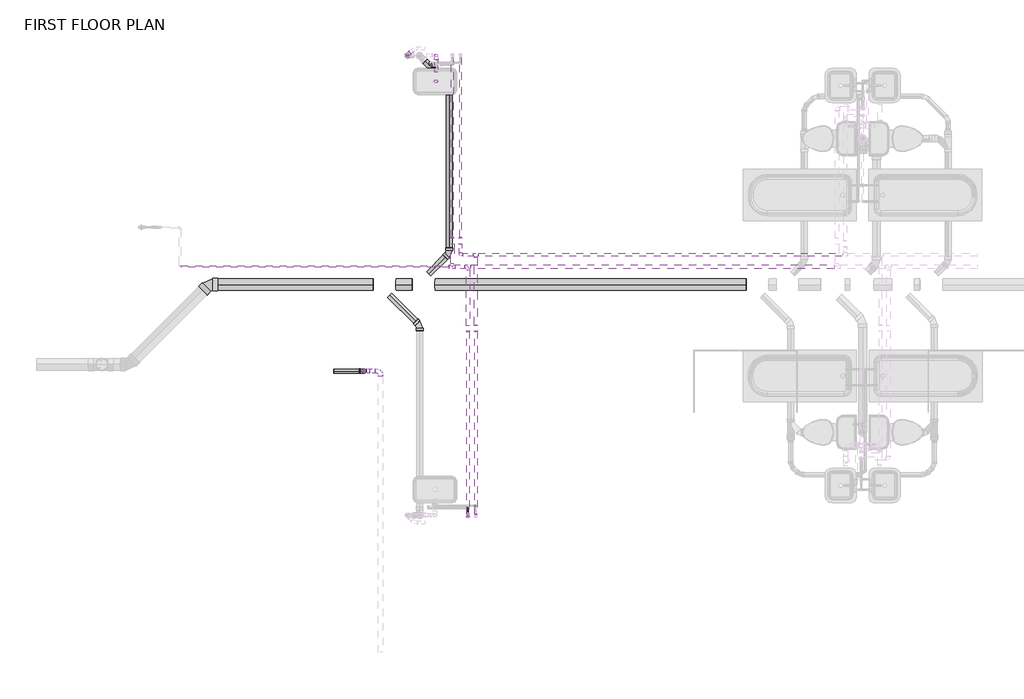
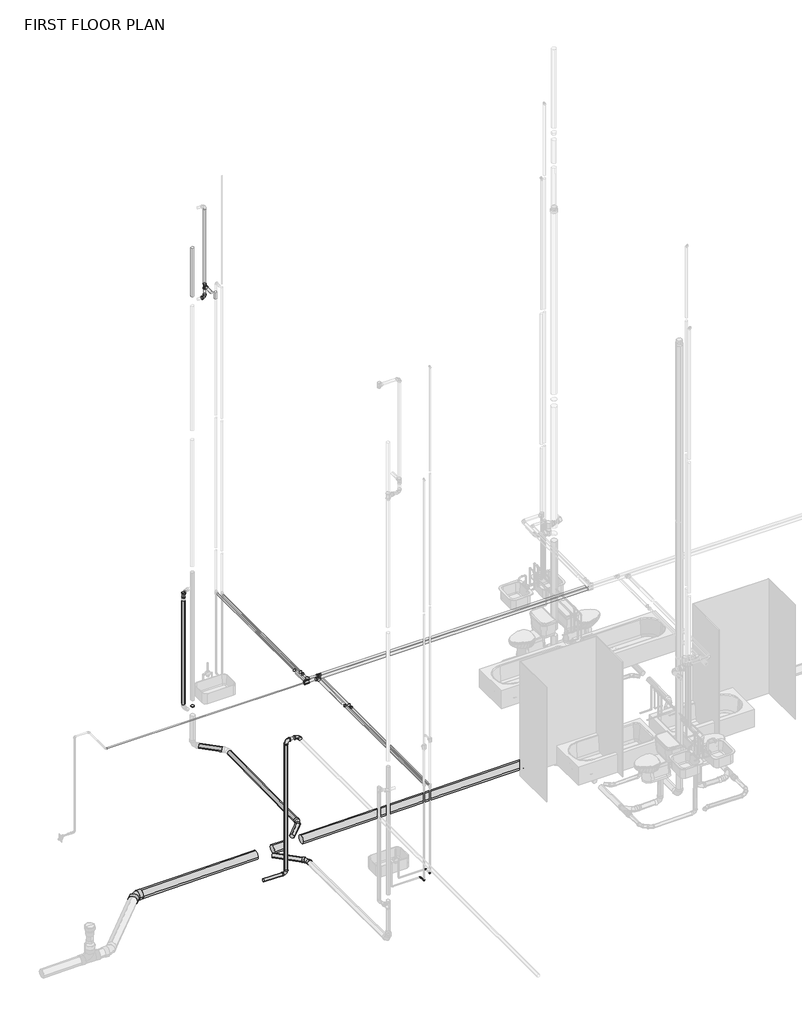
# One storey, part 3 of 29: 32 pipe segments, 25 pipe fittings.
"""IFC4 building model written with IfcOpenShell, lengths in millimetres."""

from ifc_helpers import new_model, si_unit, point, frame, frame_2d, origin, place, context, project, spatial, circle_curve, trimmed, segment, composite_curve, outline, extrude, transform, mapped, element, save
from components import bend_pvc_sch_40_dwv_standard_468c22b2, bend_pvc_sch_40_dwv_standard_06284595, bend_pvc_sch_40_dwv_standard_1eaeee76, bend_pvc_sch_40_dwv_standard_d92d3862, bend_pvc_sch_40_dwv_standard_7b61f301, bend_pvc_sch_40_dwv_standard_9a145829, pipe_elbow_copper_k_557be1fc, pipe_elbow_copper_k_aad62f2d, pipe_tee_copper_k_36278b8a, pipe_tee_copper_k_7127fd44, pipe_transition_copper_k_c7248b3c, pipe_transition_copper_k_2e591508, pipe_transition_copper_k_a6a91236, pipe_transition_copper_k_83c73321, pipe_transition_copper_k_2a5e9307, tee_sanitary_pvc_sch_40_dwv_standard_ad422280, tee_sanitary_pvc_sch_40_dwv_standard_be04015c

model = new_model("IFC4")

# Units and contexts
model_context = context("Model", 3, world=origin())
ifc_project = project(units=[si_unit("LENGTHUNIT", "METRE", prefix="MILLI")], contexts=[model_context])

# Site, building, storey
site = spatial("IfcSite", under=ifc_project)
building = spatial("IfcBuilding", under=site)
storey = spatial("IfcBuildingStorey", under=building, Name="FIRST FLOOR PLAN", Elevation=0.0)

# Pipe fittings
placement = place(None, origin())
bend_pvc_sch_40_dwv_standard_shape = bend_pvc_sch_40_dwv_standard_468c22b2(model_context)
element("IfcPipeFitting", 1, ObjectType="Bend - PVC - Sch 40 - DWV : Standard", at=placement, inside=storey, context=model_context, shape_type="MappedRepresentation", body=[
    mapped(bend_pvc_sch_40_dwv_standard_shape, transform((-4211.8802487, 8911.2513726, 8872.334795), x_axis=(0.0, 0.0, -1.0), y_axis=(-1.0, 0.0, 0.0), z_axis=(0.0, 1.0, 0.0))),
])
bend_pvc_sch_40_dwv_standard_2_shape = bend_pvc_sch_40_dwv_standard_06284595(model_context)
element("IfcPipeFitting", 2, ObjectType="Bend - PVC - Sch 40 - DWV : Standard", at=placement, inside=storey, context=model_context, shape_type="MappedRepresentation", body=[
    mapped(bend_pvc_sch_40_dwv_standard_2_shape, transform((-4457.3750986, 4908.9671681, -603.2959288), x_axis=(0.0, 0.9999579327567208, -0.009172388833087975), y_axis=(-0.9999992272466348, -1.1402965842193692e-05, -0.0012431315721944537), z_axis=(-0.0012431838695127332, 0.009172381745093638, 0.9999571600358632))),
])
bend_pvc_sch_40_dwv_standard_3_shape = bend_pvc_sch_40_dwv_standard_1eaeee76(model_context)
element("IfcPipeFitting", 3, ObjectType="Bend - PVC - Sch 40 - DWV : Standard", at=placement, inside=storey, context=model_context, shape_type="MappedRepresentation", body=[
    mapped(bend_pvc_sch_40_dwv_standard_3_shape, transform((-5278.6085819, 4229.8137881, 2647.6161001), x_axis=(-1.0, 0.0, 0.0), y_axis=(0.0, 0.0, -1.0), z_axis=(0.0, -1.0, 0.0))),
])
element("IfcPipeFitting", 4, ObjectType="Bend - PVC - Sch 40 - DWV : Standard", at=placement, inside=storey, context=model_context, shape_type="MappedRepresentation", body=[
    mapped(bend_pvc_sch_40_dwv_standard_3_shape, transform((-5038.8915125, 4229.8137881, 2647.6161001), x_axis=(0.0, 1.0, 0.0), y_axis=(-1.0, 0.0, 0.0), z_axis=(0.0, 0.0, 1.0))),
])
bend_pvc_sch_40_dwv_standard_4_shape = bend_pvc_sch_40_dwv_standard_d92d3862(model_context)
element("IfcPipeFitting", 5, ObjectType="Bend - PVC - Sch 40 - DWV : Standard", at=placement, inside=storey, context=model_context, shape_type="MappedRepresentation", body=[
    mapped(bend_pvc_sch_40_dwv_standard_4_shape, transform((-4017.0165056, 5979.889463, -596.8805567), x_axis=(0.7070684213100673, 0.7070684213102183, 0.010416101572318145), y_axis=(-0.7071320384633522, 0.7070682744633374, 0.004328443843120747), z_axis=(-0.0043043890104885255, -0.010426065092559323, 0.9999363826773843))),
])
bend_pvc_sch_40_dwv_standard_5_shape = bend_pvc_sch_40_dwv_standard_7b61f301(model_context)
element("IfcPipeFitting", 6, ObjectType="Bend - PVC - Sch 40 - DWV : Standard", at=placement, inside=storey, context=model_context, shape_type="MappedRepresentation", body=[
    mapped(bend_pvc_sch_40_dwv_standard_5_shape, transform((-7583.0353924, 5514.0228988, -636.035419), x_axis=(-0.9999457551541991, 0.0, -0.010415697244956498), y_axis=(4.4794949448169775e-05, -0.9999907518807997, -0.004300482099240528), z_axis=(-0.01041560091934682, -0.0043007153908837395, 0.9999365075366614))),
])
bend_pvc_sch_40_dwv_standard_6_shape = bend_pvc_sch_40_dwv_standard_9a145829(model_context)
element("IfcPipeFitting", 7, ObjectType="Bend - PVC - Sch 40 - DWV : Standard", at=placement, inside=storey, context=model_context, shape_type="MappedRepresentation", body=[
    mapped(bend_pvc_sch_40_dwv_standard_6_shape, transform((-5278.6085819, 4229.8137881, -171.7838999), x_axis=(0.9999457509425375, 0.0, -0.010416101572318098), y_axis=(0.010416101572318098, 0.0, 0.9999457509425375), z_axis=(0.0, -1.0, 0.0))),
])
pipe_elbow_copper_k_shape = pipe_elbow_copper_k_557be1fc(model_context)
element("IfcPipeFitting", 8, ObjectType="Pipe Elbow : Copper- K", at=placement, inside=storey, context=model_context, shape_type="MappedRepresentation", body=[
    mapped(pipe_elbow_copper_k_shape, transform((-3851.0839703, 5956.0175381, 2413.0), x_axis=(0.0, -1.0, 0.0), y_axis=(1.0, 0.0, 0.0), z_axis=(0.0, 0.0, 1.0))),
])
pipe_elbow_copper_k_2_shape = pipe_elbow_copper_k_aad62f2d(model_context)
element("IfcPipeFitting", 9, ObjectType="Pipe Elbow : Copper- K", at=placement, inside=storey, context=model_context, shape_type="MappedRepresentation", body=[
    mapped(pipe_elbow_copper_k_2_shape, transform((-3623.2336623, 2071.7561808, 548.6757324), x_axis=(0.0, 0.0, -1.0), y_axis=(0.0, 1.0, 0.0), z_axis=(1.0, 0.0, 0.0))),
])
element("IfcPipeFitting", 10, ObjectType="Pipe Elbow : Copper- K", at=placement, inside=storey, context=model_context, shape_type="MappedRepresentation", body=[
    mapped(pipe_elbow_copper_k_2_shape, transform((-3623.2336623, 2227.8137881, 548.6757324), x_axis=(0.0, 1.0, 0.0), y_axis=(-0.9999999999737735, 0.0, 7.242448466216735e-06), z_axis=(7.242448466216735e-06, 0.0, 0.9999999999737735))),
])
element("IfcPipeFitting", 11, ObjectType="Pipe Elbow : Copper- K", at=placement, inside=storey, context=model_context, shape_type="MappedRepresentation", body=[
    mapped(pipe_elbow_copper_k_2_shape, transform((-3742.3858484, 2195.725865, 436.8601562), x_axis=(0.0, 1.0, 0.0), y_axis=(-1.0, 0.0, 0.0), z_axis=(0.0, 0.0, 1.0))),
])
element("IfcPipeFitting", 12, ObjectType="Pipe Elbow : Copper- K", at=placement, inside=storey, context=model_context, shape_type="MappedRepresentation", body=[
    mapped(pipe_elbow_copper_k_2_shape, transform((-3742.3858484, 2071.7561808, 436.8601563), x_axis=(0.0, -1.0, 0.0), y_axis=(0.0, 0.0, 1.0), z_axis=(-1.0, 0.0, 0.0))),
])
pipe_tee_copper_k_shape = pipe_tee_copper_k_36278b8a(model_context)
element("IfcPipeFitting", 13, ObjectType="Pipe Tee : Copper- K", at=placement, inside=storey, context=model_context, shape_type="MappedRepresentation", body=[
    mapped(pipe_tee_copper_k_shape, transform((-3742.3858484, 5778.2175381, 2490.6882812), x_axis=(1.0, 0.0, 0.0), y_axis=(0.0, 1.0, 0.0), z_axis=(0.0, 0.0, 1.0))),
])
element("IfcPipeFitting", 14, ObjectType="Pipe Tee : Copper- K", at=placement, inside=storey, context=model_context, shape_type="MappedRepresentation", body=[
    mapped(pipe_tee_copper_k_shape, transform((-3971.8165125, 5778.2175381, 2490.6882812), x_axis=(1.0, 0.0, 0.0), y_axis=(0.0, -1.0, 0.0), z_axis=(0.0, 0.0, -1.0))),
])
pipe_tee_copper_k_2_shape = pipe_tee_copper_k_7127fd44(model_context)
element("IfcPipeFitting", 15, ObjectType="Pipe Tee : Copper- K", at=placement, inside=storey, context=model_context, shape_type="MappedRepresentation", body=[
    mapped(pipe_tee_copper_k_2_shape, transform((-3623.2336623, 5956.0175381, 2413.0), x_axis=(-1.0, 0.0, 0.0), y_axis=(0.0, 1.0, 0.0), z_axis=(0.0, 0.0, -1.0))),
])
pipe_transition_copper_k_shape = pipe_transition_copper_k_c7248b3c(model_context)
element("IfcPipeFitting", 16, ObjectType="Pipe Transition : Copper- K", at=placement, inside=storey, context=model_context, shape_type="MappedRepresentation", body=[
    mapped(pipe_transition_copper_k_shape, transform((-3851.0839703, 6114.6049131, 2413.0), x_axis=(0.0, 1.0, 0.0), y_axis=(-1.0, 0.0, 0.0), z_axis=(0.0, 0.0, 1.0))),
])
element("IfcPipeFitting", 17, ObjectType="Pipe Transition : Copper- K", at=placement, inside=storey, context=model_context, shape_type="MappedRepresentation", body=[
    mapped(pipe_transition_copper_k_shape, transform((-3623.2336623, 4910.4226631, 2413.0), x_axis=(0.0, -1.0, 0.0), y_axis=(1.0, 0.0, 0.0), z_axis=(0.0, 0.0, 1.0))),
])
pipe_transition_copper_k_2_shape = pipe_transition_copper_k_2e591508(model_context)
element("IfcPipeFitting", 18, ObjectType="Pipe Transition : Copper- K", at=placement, inside=storey, context=model_context, shape_type="MappedRepresentation", body=[
    mapped(pipe_transition_copper_k_2_shape, transform((-4014.6790125, 5778.2175381, 2490.6882812), x_axis=(-1.0, 0.0, 0.0), y_axis=(0.0, -1.0, 0.0), z_axis=(0.0, 0.0, 1.0))),
])
pipe_transition_copper_k_3_shape = pipe_transition_copper_k_a6a91236(model_context)
element("IfcPipeFitting", 19, ObjectType="Pipe Transition : Copper- K", at=placement, inside=storey, context=model_context, shape_type="MappedRepresentation", body=[
    mapped(pipe_transition_copper_k_3_shape, transform((-3971.8165125, 6199.0757881, 2490.6882812), x_axis=(0.0, 1.0, 0.0), y_axis=(-1.0, 0.0, 0.0), z_axis=(0.0, 0.0, 1.0))),
])
element("IfcPipeFitting", 20, ObjectType="Pipe Transition : Copper- K", at=placement, inside=storey, context=model_context, shape_type="MappedRepresentation", body=[
    mapped(pipe_transition_copper_k_3_shape, transform((-3851.0839703, 6199.0757881, 2413.0), x_axis=(0.0, 1.0, 0.0), y_axis=(-1.0, 0.0, 0.0), z_axis=(0.0, 0.0, 1.0))),
])
pipe_transition_copper_k_4_shape = pipe_transition_copper_k_83c73321(model_context)
element("IfcPipeFitting", 21, ObjectType="Pipe Transition : Copper- K", at=placement, inside=storey, context=model_context, shape_type="MappedRepresentation", body=[
    mapped(pipe_transition_copper_k_4_shape, transform((-3742.3858484, 4825.9517881, 2490.6882812), x_axis=(0.0, -1.0, 0.0), y_axis=(1.0, 0.0, 0.0), z_axis=(0.0, 0.0, 1.0))),
])
element("IfcPipeFitting", 22, ObjectType="Pipe Transition : Copper- K", at=placement, inside=storey, context=model_context, shape_type="MappedRepresentation", body=[
    mapped(pipe_transition_copper_k_4_shape, transform((-3623.2336623, 4825.9517881, 2413.0), x_axis=(0.0, -1.0, 0.0), y_axis=(1.0, 0.0, 0.0), z_axis=(0.0, 0.0, 1.0))),
])
pipe_transition_copper_k_5_shape = pipe_transition_copper_k_2a5e9307(model_context)
element("IfcPipeFitting", 23, ObjectType="Pipe Transition : Copper- K", at=placement, inside=storey, context=model_context, shape_type="MappedRepresentation", body=[
    mapped(pipe_transition_copper_k_5_shape, transform((-3742.3858484, 2071.7561808, 2452.9851562), x_axis=(0.0, 0.0, 1.0), y_axis=(-1.0, 0.0, 0.0), z_axis=(0.0, -1.0, 0.0))),
])
tee_sanitary_pvc_sch_40_dwv_standard_shape = tee_sanitary_pvc_sch_40_dwv_standard_ad422280(model_context)
element("IfcPipeFitting", 24, ObjectType="Tee Sanitary - PVC - Sch 40 - DWV : Standard", at=placement, inside=storey, context=model_context, shape_type="MappedRepresentation", body=[
    mapped(tee_sanitary_pvc_sch_40_dwv_standard_shape, transform((-4211.8802487, 8911.2513726, 9112.4170389), x_axis=(0.0, 0.0, 1.0), y_axis=(0.0, 1.0, 0.0), z_axis=(-1.0, 0.0, 0.0))),
])
tee_sanitary_pvc_sch_40_dwv_standard_2_shape = tee_sanitary_pvc_sch_40_dwv_standard_be04015c(model_context)
element("IfcPipeFitting", 25, ObjectType="Tee Sanitary - PVC - Sch 40 - DWV : Standard", at=placement, inside=storey, context=model_context, shape_type="MappedRepresentation", body=[
    mapped(tee_sanitary_pvc_sch_40_dwv_standard_2_shape, transform((-4642.7612611, 8912.119871, 2687.3998234), x_axis=(0.0, 0.0, 1.0), y_axis=(-0.7098586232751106, -0.7043441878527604, 0.0), z_axis=(0.7043441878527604, -0.7098586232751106, 0.0))),
])

# Pipe segments
element("IfcPipeSegment", 26, ObjectType="Copper", at=placement, inside=storey, context=model_context, shape_type="SweptSolid", body=[
    extrude(outline(composite_curve([segment(trimmed(circle_curve(frame_2d((2413.0, -3851.0839703)), 14.2875), [point((2413.0, -3836.7964703))], [point((2427.2875, -3851.0839703))], False, "CARTESIAN"), True, "CONTINUOUS"), segment(trimmed(circle_curve(frame_2d((2413.0, -3851.0839703)), 14.2875), [point((2427.2875, -3851.0839703))], [point((2413.0, -3865.3714703))], False, "CARTESIAN"), True, "CONTINUOUS"), segment(trimmed(circle_curve(frame_2d((2413.0, -3851.0839703)), 14.2875), [point((2413.0, -3865.3714703))], [point((2398.7125, -3851.0839703))], False, "CARTESIAN"), True, "CONTINUOUS"), segment(trimmed(circle_curve(frame_2d((2413.0, -3851.0839703)), 14.2875), [point((2398.7125, -3851.0839703))], [point((2413.0, -3836.7964703))], False, "CARTESIAN"), True, "CONTINUOUS")], self_intersect=False)), frame((0.0, 6212.5695381, 0.0), z_axis=(0.0, 1.0, 0.0), x_axis=(0.0, 0.0, 1.0)), (0.0, 0.0, 1.0), 2673.17925),
])
element("IfcPipeSegment", 27, ObjectType="Copper", at=placement, inside=storey, context=model_context, shape_type="SweptSolid", body=[
    extrude(outline(composite_curve([segment(trimmed(circle_curve(frame_2d((2490.6882812, -3971.8165125)), 14.2875), [point((2490.6882812, -3957.5290125))], [point((2504.9757812, -3971.8165125))], False, "CARTESIAN"), True, "CONTINUOUS"), segment(trimmed(circle_curve(frame_2d((2490.6882812, -3971.8165125)), 14.2875), [point((2504.9757812, -3971.8165125))], [point((2490.6882812, -3986.1040125))], False, "CARTESIAN"), True, "CONTINUOUS"), segment(trimmed(circle_curve(frame_2d((2490.6882812, -3971.8165125)), 14.2875), [point((2490.6882812, -3986.1040125))], [point((2476.4007812, -3971.8165125))], False, "CARTESIAN"), True, "CONTINUOUS"), segment(trimmed(circle_curve(frame_2d((2490.6882812, -3971.8165125)), 14.2875), [point((2476.4007812, -3971.8165125))], [point((2490.6882812, -3957.5290125))], False, "CARTESIAN"), True, "CONTINUOUS")], self_intersect=False)), frame((0.0, 6212.5695381, 0.0), z_axis=(0.0, 1.0, 0.0), x_axis=(0.0, 0.0, 1.0)), (0.0, 0.0, 1.0), 2673.17925),
])
element("IfcPipeSegment", 28, ObjectType="Copper", at=placement, inside=storey, context=model_context, shape_type="SweptSolid", body=[
    extrude(outline(composite_curve([segment(trimmed(circle_curve(frame_2d((2413.0, -3623.2336623)), 17.4625), [point((2413.0, -3640.6961623))], [point((2395.5375, -3623.2336623))], False, "CARTESIAN"), True, "CONTINUOUS"), segment(trimmed(circle_curve(frame_2d((2413.0, -3623.2336623)), 17.4625), [point((2395.5375, -3623.2336623))], [point((2413.0, -3605.7711623))], False, "CARTESIAN"), True, "CONTINUOUS"), segment(trimmed(circle_curve(frame_2d((2413.0, -3623.2336623)), 17.4625), [point((2413.0, -3605.7711623))], [point((2430.4625, -3623.2336623))], False, "CARTESIAN"), True, "CONTINUOUS"), segment(trimmed(circle_curve(frame_2d((2413.0, -3623.2336623)), 17.4625), [point((2430.4625, -3623.2336623))], [point((2413.0, -3640.6961623))], False, "CARTESIAN"), True, "CONTINUOUS")], self_intersect=False)), frame((0.0, 2105.0936808, 0.0), z_axis=(0.0, 1.0, 0.0), x_axis=(0.0, 0.0, 1.0)), (0.0, 0.0, 1.0), 2707.3643572),
])
element("IfcPipeSegment", 29, ObjectType="Copper", at=placement, inside=storey, context=model_context, shape_type="SweptSolid", body=[
    extrude(outline(composite_curve([segment(trimmed(circle_curve(frame_2d((2490.6882812, -3742.3858484)), 17.4625), [point((2490.6882812, -3759.8483484))], [point((2473.2257812, -3742.3858484))], False, "CARTESIAN"), True, "CONTINUOUS"), segment(trimmed(circle_curve(frame_2d((2490.6882812, -3742.3858484)), 17.4625), [point((2473.2257812, -3742.3858484))], [point((2490.6882812, -3724.9233484))], False, "CARTESIAN"), True, "CONTINUOUS"), segment(trimmed(circle_curve(frame_2d((2490.6882812, -3742.3858484)), 17.4625), [point((2490.6882812, -3724.9233484))], [point((2508.1507812, -3742.3858484))], False, "CARTESIAN"), True, "CONTINUOUS"), segment(trimmed(circle_curve(frame_2d((2490.6882812, -3742.3858484)), 17.4625), [point((2508.1507812, -3742.3858484))], [point((2490.6882812, -3759.8483484))], False, "CARTESIAN"), True, "CONTINUOUS")], self_intersect=False)), frame((0.0, 2105.0936808, 0.0), z_axis=(0.0, 1.0, 0.0), x_axis=(0.0, 0.0, 1.0)), (0.0, 0.0, 1.0), 2707.3643572),
])
element("IfcPipeSegment", 30, ObjectType="Copper", at=placement, inside=storey, context=model_context, shape_type="SweptSolid", body=[
    extrude(outline(composite_curve([segment(trimmed(circle_curve(frame_2d((5956.0175381, 2413.0)), 20.6375), [point((5935.3800381, 2413.0))], [point((5956.0175381, 2433.6375))], False, "CARTESIAN"), True, "CONTINUOUS"), segment(trimmed(circle_curve(frame_2d((5956.0175381, 2413.0)), 20.6375), [point((5956.0175381, 2433.6375))], [point((5976.6550381, 2413.0))], False, "CARTESIAN"), True, "CONTINUOUS"), segment(trimmed(circle_curve(frame_2d((5956.0175381, 2413.0)), 20.6375), [point((5976.6550381, 2413.0))], [point((5956.0175381, 2392.3625))], False, "CARTESIAN"), True, "CONTINUOUS"), segment(trimmed(circle_curve(frame_2d((5956.0175381, 2413.0)), 20.6375), [point((5956.0175381, 2392.3625))], [point((5935.3800381, 2413.0))], False, "CARTESIAN"), True, "CONTINUOUS")], self_intersect=False)), frame((-3820.9214703, 0.0, 0.0), z_axis=(1.0, 0.0, 0.0), x_axis=(0.0, 1.0, 0.0)), (0.0, 0.0, 1.0), 161.1753081),
])
element("IfcPipeSegment", 31, ObjectType="Copper", at=placement, inside=storey, context=model_context, shape_type="SweptSolid", body=[
    extrude(outline(composite_curve([segment(trimmed(circle_curve(frame_2d((2490.6882812, -3971.8165125)), 26.9875), [point((2490.6882812, -3998.8040125))], [point((2463.7007812, -3971.8165125))], False, "CARTESIAN"), True, "CONTINUOUS"), segment(trimmed(circle_curve(frame_2d((2490.6882812, -3971.8165125)), 26.9875), [point((2463.7007812, -3971.8165125))], [point((2490.6882812, -3944.8290125))], False, "CARTESIAN"), True, "CONTINUOUS"), segment(trimmed(circle_curve(frame_2d((2490.6882812, -3971.8165125)), 26.9875), [point((2490.6882812, -3944.8290125))], [point((2517.6757812, -3971.8165125))], False, "CARTESIAN"), True, "CONTINUOUS"), segment(trimmed(circle_curve(frame_2d((2490.6882812, -3971.8165125)), 26.9875), [point((2517.6757812, -3971.8165125))], [point((2490.6882812, -3998.8040125))], False, "CARTESIAN"), True, "CONTINUOUS")], self_intersect=False)), frame((0.0, 5821.0800381, 0.0), z_axis=(0.0, 1.0, 0.0), x_axis=(0.0, 0.0, 1.0)), (0.0, 0.0, 1.0), 300.27175),
])
element("IfcPipeSegment", 32, ObjectType="Copper", at=placement, inside=storey, context=model_context, shape_type="SweptSolid", body=[
    extrude(outline(composite_curve([segment(trimmed(circle_curve(frame_2d((2413.0, -3851.0839703)), 20.6375), [point((2413.0, -3830.4464703))], [point((2433.6375, -3851.0839703))], False, "CARTESIAN"), True, "CONTINUOUS"), segment(trimmed(circle_curve(frame_2d((2413.0, -3851.0839703)), 20.6375), [point((2433.6375, -3851.0839703))], [point((2413.0, -3871.7214703))], False, "CARTESIAN"), True, "CONTINUOUS"), segment(trimmed(circle_curve(frame_2d((2413.0, -3851.0839703)), 20.6375), [point((2413.0, -3871.7214703))], [point((2392.3625, -3851.0839703))], False, "CARTESIAN"), True, "CONTINUOUS"), segment(trimmed(circle_curve(frame_2d((2413.0, -3851.0839703)), 20.6375), [point((2392.3625, -3851.0839703))], [point((2413.0, -3830.4464703))], False, "CARTESIAN"), True, "CONTINUOUS")], self_intersect=False)), frame((0.0, 5986.1800381, 0.0), z_axis=(0.0, 1.0, 0.0), x_axis=(0.0, 0.0, 1.0)), (0.0, 0.0, 1.0), 128.424875),
])
element("IfcPipeSegment", 33, ObjectType="Copper", at=placement, inside=storey, context=model_context, shape_type="SweptSolid", body=[
    extrude(outline(composite_curve([segment(trimmed(circle_curve(frame_2d((2490.6882812, -3742.3858484)), 26.9875), [point((2490.6882812, -3769.3733484))], [point((2463.7007812, -3742.3858484))], False, "CARTESIAN"), True, "CONTINUOUS"), segment(trimmed(circle_curve(frame_2d((2490.6882812, -3742.3858484)), 26.9875), [point((2463.7007812, -3742.3858484))], [point((2490.6882812, -3715.3983484))], False, "CARTESIAN"), True, "CONTINUOUS"), segment(trimmed(circle_curve(frame_2d((2490.6882812, -3742.3858484)), 26.9875), [point((2490.6882812, -3715.3983484))], [point((2517.6757812, -3742.3858484))], False, "CARTESIAN"), True, "CONTINUOUS"), segment(trimmed(circle_curve(frame_2d((2490.6882812, -3742.3858484)), 26.9875), [point((2517.6757812, -3742.3858484))], [point((2490.6882812, -3769.3733484))], False, "CARTESIAN"), True, "CONTINUOUS")], self_intersect=False)), frame((0.0, 4903.6757881, 0.0), z_axis=(0.0, 1.0, 0.0), x_axis=(0.0, 0.0, 1.0)), (0.0, 0.0, 1.0), 831.67925),
])
element("IfcPipeSegment", 34, ObjectType="Copper", at=placement, inside=storey, context=model_context, shape_type="SweptSolid", body=[
    extrude(outline(composite_curve([segment(trimmed(circle_curve(frame_2d((2413.0, -3623.2336623)), 20.6375), [point((2413.0, -3643.8711623))], [point((2392.3625, -3623.2336623))], False, "CARTESIAN"), True, "CONTINUOUS"), segment(trimmed(circle_curve(frame_2d((2413.0, -3623.2336623)), 20.6375), [point((2392.3625, -3623.2336623))], [point((2413.0, -3602.5961623))], False, "CARTESIAN"), True, "CONTINUOUS"), segment(trimmed(circle_curve(frame_2d((2413.0, -3623.2336623)), 20.6375), [point((2413.0, -3602.5961623))], [point((2433.6375, -3623.2336623))], False, "CARTESIAN"), True, "CONTINUOUS"), segment(trimmed(circle_curve(frame_2d((2413.0, -3623.2336623)), 20.6375), [point((2433.6375, -3623.2336623))], [point((2413.0, -3643.8711623))], False, "CARTESIAN"), True, "CONTINUOUS")], self_intersect=False)), frame((0.0, 4910.4226631, 0.0), z_axis=(0.0, 1.0, 0.0), x_axis=(0.0, 0.0, 1.0)), (0.0, 0.0, 1.0), 1009.082375),
])
element("IfcPipeSegment", 35, ObjectType="Copper", at=placement, inside=storey, context=model_context, shape_type="SweptSolid", body=[
    extrude(outline(composite_curve([segment(trimmed(circle_curve(frame_2d((5778.2175381, 2490.6882812)), 26.9875), [point((5805.2050381, 2490.6882812))], [point((5778.2175381, 2463.7007812))], False, "CARTESIAN"), True, "CONTINUOUS"), segment(trimmed(circle_curve(frame_2d((5778.2175381, 2490.6882812)), 26.9875), [point((5778.2175381, 2463.7007812))], [point((5751.2300381, 2490.6882812))], False, "CARTESIAN"), True, "CONTINUOUS"), segment(trimmed(circle_curve(frame_2d((5778.2175381, 2490.6882812)), 26.9875), [point((5751.2300381, 2490.6882812))], [point((5778.2175381, 2517.6757812))], False, "CARTESIAN"), True, "CONTINUOUS"), segment(trimmed(circle_curve(frame_2d((5778.2175381, 2490.6882812)), 26.9875), [point((5778.2175381, 2517.6757812))], [point((5805.2050381, 2490.6882812))], False, "CARTESIAN"), True, "CONTINUOUS")], self_intersect=False)), frame((-3699.5233484, 0.0, 0.0), z_axis=(1.0, 0.0, 0.0), x_axis=(0.0, 1.0, 0.0)), (0.0, 0.0, 1.0), 5395.9232727),
])
element("IfcPipeSegment", 36, ObjectType="Copper", at=placement, inside=storey, context=model_context, shape_type="SweptSolid", body=[
    extrude(outline(composite_curve([segment(trimmed(circle_curve(frame_2d((5956.0175381, 2413.0)), 20.6375), [point((5935.3800381, 2413.0))], [point((5956.0175381, 2433.6375))], False, "CARTESIAN"), True, "CONTINUOUS"), segment(trimmed(circle_curve(frame_2d((5956.0175381, 2413.0)), 20.6375), [point((5956.0175381, 2433.6375))], [point((5976.6550381, 2413.0))], False, "CARTESIAN"), True, "CONTINUOUS"), segment(trimmed(circle_curve(frame_2d((5956.0175381, 2413.0)), 20.6375), [point((5976.6550381, 2413.0))], [point((5956.0175381, 2392.3625))], False, "CARTESIAN"), True, "CONTINUOUS"), segment(trimmed(circle_curve(frame_2d((5956.0175381, 2413.0)), 20.6375), [point((5956.0175381, 2392.3625))], [point((5935.3800381, 2413.0))], False, "CARTESIAN"), True, "CONTINUOUS")], self_intersect=False)), frame((-3586.7211623, 0.0, 0.0), z_axis=(1.0, 0.0, 0.0), x_axis=(0.0, 1.0, 0.0)), (0.0, 0.0, 1.0), 5408.6232727),
])
element("IfcPipeSegment", 37, ObjectType="Copper", at=placement, inside=storey, context=model_context, shape_type="SweptSolid", body=[
    extrude(outline(composite_curve([segment(trimmed(circle_curve(frame_2d((5778.2175381, 2490.6882812)), 11.1125), [point((5789.3300381, 2490.6882812))], [point((5778.2175381, 2479.5757812))], False, "CARTESIAN"), True, "CONTINUOUS"), segment(trimmed(circle_curve(frame_2d((5778.2175381, 2490.6882812)), 11.1125), [point((5778.2175381, 2479.5757812))], [point((5767.1050381, 2490.6882812))], False, "CARTESIAN"), True, "CONTINUOUS"), segment(trimmed(circle_curve(frame_2d((5778.2175381, 2490.6882812)), 11.1125), [point((5767.1050381, 2490.6882812))], [point((5778.2175381, 2501.8007812))], False, "CARTESIAN"), True, "CONTINUOUS"), segment(trimmed(circle_curve(frame_2d((5778.2175381, 2490.6882812)), 11.1125), [point((5778.2175381, 2501.8007812))], [point((5789.3300381, 2490.6882812))], False, "CARTESIAN"), True, "CONTINUOUS")], self_intersect=False)), frame((-7995.3352625, 0.0, 0.0), z_axis=(1.0, 0.0, 0.0), x_axis=(0.0, 1.0, 0.0)), (0.0, 0.0, 1.0), 3967.1625),
])
element("IfcPipeSegment", 38, ObjectType="Copper", at=placement, inside=storey, context=model_context, shape_type="SweptSolid", body=[
    extrude(outline(composite_curve([segment(trimmed(circle_curve(frame_2d((5778.2175381, 2490.6882812)), 26.9875), [point((5805.2050381, 2490.6882812))], [point((5778.2175381, 2463.7007812))], False, "CARTESIAN"), True, "CONTINUOUS"), segment(trimmed(circle_curve(frame_2d((5778.2175381, 2490.6882812)), 26.9875), [point((5778.2175381, 2463.7007812))], [point((5751.2300381, 2490.6882812))], False, "CARTESIAN"), True, "CONTINUOUS"), segment(trimmed(circle_curve(frame_2d((5778.2175381, 2490.6882812)), 26.9875), [point((5751.2300381, 2490.6882812))], [point((5778.2175381, 2517.6757812))], False, "CARTESIAN"), True, "CONTINUOUS"), segment(trimmed(circle_curve(frame_2d((5778.2175381, 2490.6882812)), 26.9875), [point((5778.2175381, 2517.6757812))], [point((5805.2050381, 2490.6882812))], False, "CARTESIAN"), True, "CONTINUOUS")], self_intersect=False)), frame((-3928.9540125, 0.0, 0.0), z_axis=(1.0, 0.0, 0.0), x_axis=(0.0, 1.0, 0.0)), (0.0, 0.0, 1.0), 143.7056642),
])
element("IfcPipeSegment", 39, ObjectType="Copper", at=placement, inside=storey, context=model_context, shape_type="SweptSolid", body=[
    extrude(outline(composite_curve([segment(trimmed(circle_curve(frame_2d((436.8601562, -3742.3858484)), 7.9375), [point((436.8601562, -3750.3233484))], [point((428.9226562, -3742.3858484))], False, "CARTESIAN"), True, "CONTINUOUS"), segment(trimmed(circle_curve(frame_2d((436.8601562, -3742.3858484)), 7.9375), [point((428.9226562, -3742.3858484))], [point((436.8601562, -3734.4483484))], False, "CARTESIAN"), True, "CONTINUOUS"), segment(trimmed(circle_curve(frame_2d((436.8601562, -3742.3858484)), 7.9375), [point((436.8601562, -3734.4483484))], [point((444.7976562, -3742.3858484))], False, "CARTESIAN"), True, "CONTINUOUS"), segment(trimmed(circle_curve(frame_2d((436.8601562, -3742.3858484)), 7.9375), [point((444.7976562, -3742.3858484))], [point((436.8601562, -3750.3233484))], False, "CARTESIAN"), True, "CONTINUOUS")], self_intersect=False)), frame((0.0, 2089.2186808, 0.0), z_axis=(0.0, 1.0, 0.0), x_axis=(0.0, 0.0, 1.0)), (0.0, 0.0, 1.0), 89.0446842),
])
element("IfcPipeSegment", 40, ObjectType="PVC - SAN/STORM", at=placement, inside=storey, context=model_context, shape_type="SweptSolid", body=[
    extrude(outline(composite_curve([segment(trimmed(circle_curve(frame_2d((0.0, -44.45)), 44.45), [point((-44.4492947, -44.7004124))], [point((-0.2504124, -0.0007054))], False, "CARTESIAN"), True, "CONTINUOUS"), segment(trimmed(circle_curve(frame_2d((0.0, -44.45)), 44.45), [point((-0.2504124, -0.0007054))], [point((44.4492946, -44.1995876))], False, "CARTESIAN"), True, "CONTINUOUS"), segment(trimmed(circle_curve(frame_2d((0.0, -44.45)), 44.45), [point((44.4492946, -44.1995876))], [point((0.2504124, -88.8992947))], False, "CARTESIAN"), True, "CONTINUOUS"), segment(trimmed(circle_curve(frame_2d((0.0, -44.45)), 44.45), [point((0.2504124, -88.8992947))], [point((-44.4492947, -44.7004124))], False, "CARTESIAN"), True, "CONTINUOUS")], self_intersect=False)), frame((-4074.2798746, 8527.156254, -614.9139892), z_axis=(-0.7071067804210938, 0.7070843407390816, 0.0056334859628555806), x_axis=(0.7071067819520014, 0.7070843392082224, 0.005633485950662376)), (0.0, 0.0, 1.0), 427.771241),
])
element("IfcPipeSegment", 41, ObjectType="PVC - SAN/STORM", at=placement, inside=storey, context=model_context, shape_type="SweptSolid", body=[
    extrude(outline(composite_curve([segment(trimmed(circle_curve(frame_2d((-4458.7004914, 8911.2513726)), 30.1625), [point((-4488.8629914, 8911.2513726))], [point((-4458.7004914, 8941.4138726))], False, "CARTESIAN"), True, "CONTINUOUS"), segment(trimmed(circle_curve(frame_2d((-4458.7004914, 8911.2513726)), 30.1625), [point((-4458.7004914, 8941.4138726))], [point((-4428.5379914, 8911.2513726))], False, "CARTESIAN"), True, "CONTINUOUS"), segment(trimmed(circle_curve(frame_2d((-4458.7004914, 8911.2513726)), 30.1625), [point((-4428.5379914, 8911.2513726))], [point((-4458.7004914, 8881.0888726))], False, "CARTESIAN"), True, "CONTINUOUS"), segment(trimmed(circle_curve(frame_2d((-4458.7004914, 8911.2513726)), 30.1625), [point((-4458.7004914, 8881.0888726))], [point((-4488.8629914, 8911.2513726))], False, "CARTESIAN"), True, "CONTINUOUS")], self_intersect=False)), frame((0.0, 0.0, 8974.029957), z_axis=(0.0, 0.0, 1.0), x_axis=(1.0, 0.0, 0.0)), (0.0, 0.0, 1.0), 1030.5620819),
])
element("IfcPipeSegment", 42, ObjectType="PVC - SAN/STORM", at=placement, inside=storey, context=model_context, shape_type="SweptSolid", body=[
    extrude(outline(composite_curve([segment(trimmed(circle_curve(frame_2d((0.0, 24.13)), 24.13), [point((0.0, 48.2600001))], [point((24.13, 24.13))], False, "CARTESIAN"), True, "CONTINUOUS"), segment(trimmed(circle_curve(frame_2d((0.0, 24.13)), 24.13), [point((24.13, 24.13))], [point((0.0, 0.0))], False, "CARTESIAN"), True, "CONTINUOUS"), segment(trimmed(circle_curve(frame_2d((0.0, 24.13)), 24.13), [point((0.0, 0.0))], [point((-24.13, 24.13))], False, "CARTESIAN"), True, "CONTINUOUS"), segment(trimmed(circle_curve(frame_2d((0.0, 24.13)), 24.13), [point((-24.13, 24.13))], [point((0.0, 48.2600001))], False, "CARTESIAN"), True, "CONTINUOUS")], self_intersect=False)), frame((-4236.001552, 8665.437447, 9113.0617935), z_axis=(-4.728618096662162e-05, 0.9999999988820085, 0.0), x_axis=(0.0, 0.0, 1.0)), (0.0, 0.0, 1.0), 183.9163428),
])
element("IfcPipeSegment", 43, ObjectType="PVC - SAN/STORM", at=placement, inside=storey, context=model_context, shape_type="SweptSolid", body=[
    extrude(outline(composite_curve([segment(trimmed(circle_curve(frame_2d((-4211.871552, 8530.5137881)), 24.13), [point((-4236.001552, 8530.5137881))], [point((-4211.871552, 8554.6437881))], False, "CARTESIAN"), True, "CONTINUOUS"), segment(trimmed(circle_curve(frame_2d((-4211.871552, 8530.5137881)), 24.13), [point((-4211.871552, 8554.6437881))], [point((-4187.741552, 8530.5137881))], False, "CARTESIAN"), True, "CONTINUOUS"), segment(trimmed(circle_curve(frame_2d((-4211.871552, 8530.5137881)), 24.13), [point((-4187.741552, 8530.5137881))], [point((-4211.871552, 8506.3837881))], False, "CARTESIAN"), True, "CONTINUOUS"), segment(trimmed(circle_curve(frame_2d((-4211.871552, 8530.5137881)), 24.13), [point((-4211.871552, 8506.3837881))], [point((-4236.001552, 8530.5137881))], False, "CARTESIAN"), True, "CONTINUOUS")], self_intersect=False)), frame((0.0, 0.0, 9068.5990935), z_axis=(0.0, 0.0, 1.0), x_axis=(1.0, 0.0, 0.0)), (0.0, 0.0, 1.0), 141.6019923),
])
element("IfcPipeSegment", 44, ObjectType="PVC - SAN/STORM", at=placement, inside=storey, context=model_context, shape_type="SweptSolid", body=[
    extrude(outline(composite_curve([segment(trimmed(circle_curve(frame_2d((-4211.8802487, 8911.2513726)), 24.13), [point((-4187.7502487, 8911.2513726))], [point((-4211.8802487, 8887.1213726))], False, "CARTESIAN"), True, "CONTINUOUS"), segment(trimmed(circle_curve(frame_2d((-4211.8802487, 8911.2513726)), 24.13), [point((-4211.8802487, 8887.1213726))], [point((-4236.0102487, 8911.2513726))], False, "CARTESIAN"), True, "CONTINUOUS"), segment(trimmed(circle_curve(frame_2d((-4211.8802487, 8911.2513726)), 24.13), [point((-4236.0102487, 8911.2513726))], [point((-4211.8802487, 8935.3813726))], False, "CARTESIAN"), True, "CONTINUOUS"), segment(trimmed(circle_curve(frame_2d((-4211.8802487, 8911.2513726)), 24.13), [point((-4211.8802487, 8935.3813726))], [point((-4187.7502487, 8911.2513726))], False, "CARTESIAN"), True, "CONTINUOUS")], self_intersect=False)), frame((0.0, 0.0, 8934.234595), z_axis=(0.0, 0.0, 1.0), x_axis=(1.0, 0.0, 0.0)), (0.0, 0.0, 1.0), 116.2826439),
])
element("IfcPipeSegment", 45, ObjectType="PVC - SAN/STORM", at=placement, inside=storey, context=model_context, shape_type="SweptSolid", body=[
    extrude(outline(composite_curve([segment(trimmed(circle_curve(frame_2d((-4211.8802487, 8911.2513726)), 24.13), [point((-4236.0102487, 8911.2513726))], [point((-4211.8802487, 8935.3813726))], False, "CARTESIAN"), True, "CONTINUOUS"), segment(trimmed(circle_curve(frame_2d((-4211.8802487, 8911.2513726)), 24.13), [point((-4211.8802487, 8935.3813726))], [point((-4187.7502487, 8911.2513726))], False, "CARTESIAN"), True, "CONTINUOUS"), segment(trimmed(circle_curve(frame_2d((-4211.8802487, 8911.2513726)), 24.13), [point((-4187.7502487, 8911.2513726))], [point((-4211.8802487, 8887.1213726))], False, "CARTESIAN"), True, "CONTINUOUS"), segment(trimmed(circle_curve(frame_2d((-4211.8802487, 8911.2513726)), 24.13), [point((-4211.8802487, 8887.1213726))], [point((-4236.0102487, 8911.2513726))], False, "CARTESIAN"), True, "CONTINUOUS")], self_intersect=False)), frame((0.0, 0.0, 9158.6112003), z_axis=(0.0, 0.0, 1.0), x_axis=(1.0, 0.0, 0.0)), (0.0, 0.0, 1.0), 1589.1002),
])
element("IfcPipeSegment", 46, ObjectType="PVC - SAN/STORM", at=placement, inside=storey, context=model_context, shape_type="SweptSolid", body=[
    extrude(outline(composite_curve([segment(trimmed(circle_curve(frame_2d((-4458.7004914, 8911.2513726)), 30.1625), [point((-4488.8629914, 8911.2513726))], [point((-4458.7004914, 8941.4138726))], False, "CARTESIAN"), True, "CONTINUOUS"), segment(trimmed(circle_curve(frame_2d((-4458.7004914, 8911.2513726)), 30.1625), [point((-4458.7004914, 8941.4138726))], [point((-4428.5379914, 8911.2513726))], False, "CARTESIAN"), True, "CONTINUOUS"), segment(trimmed(circle_curve(frame_2d((-4458.7004914, 8911.2513726)), 30.1625), [point((-4428.5379914, 8911.2513726))], [point((-4458.7004914, 8881.0888726))], False, "CARTESIAN"), True, "CONTINUOUS"), segment(trimmed(circle_curve(frame_2d((-4458.7004914, 8911.2513726)), 30.1625), [point((-4458.7004914, 8881.0888726))], [point((-4488.8629914, 8911.2513726))], False, "CARTESIAN"), True, "CONTINUOUS")], self_intersect=False)), frame((0.0, 0.0, 249.6588133), z_axis=(0.0, 0.0, 1.0), x_axis=(1.0, 0.0, 0.0)), (0.0, 0.0, 1.0), 9.9027802),
])
element("IfcPipeSegment", 47, ObjectType="PVC - SAN/STORM", at=placement, inside=storey, context=model_context, shape_type="SweptSolid", body=[
    extrude(outline(composite_curve([segment(trimmed(circle_curve(frame_2d((0.0, 24.13)), 24.13), [point((-24.128658, 24.3844918))], [point((0.2544917, 48.2586579))], False, "CARTESIAN"), True, "CONTINUOUS"), segment(trimmed(circle_curve(frame_2d((0.0, 24.13)), 24.13), [point((0.2544917, 48.2586579))], [point((24.128658, 23.8755083))], False, "CARTESIAN"), True, "CONTINUOUS"), segment(trimmed(circle_curve(frame_2d((0.0, 24.13)), 24.13), [point((24.128658, 23.8755083))], [point((-0.2544917, 0.001342))], False, "CARTESIAN"), True, "CONTINUOUS"), segment(trimmed(circle_curve(frame_2d((0.0, 24.13)), 24.13), [point((-0.2544917, 0.001342))], [point((-24.128658, 24.3844918))], False, "CARTESIAN"), True, "CONTINUOUS")], self_intersect=False)), frame((-4569.0302233, 8984.9196293, 2662.185421), z_axis=(-0.709819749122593, -0.7043056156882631, 0.010465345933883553), x_axis=(0.7043833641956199, -0.7097414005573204, 0.01054611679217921)), (0.0, 0.0, 1.0), 41.9731028),
])
element("IfcPipeSegment", 48, ObjectType="PVC - SAN/STORM", at=placement, inside=storey, context=model_context, shape_type="SweptSolid", body=[
    extrude(outline(composite_curve([segment(trimmed(circle_curve(frame_2d((-4642.7612611, 8912.119871)), 30.1625), [point((-4612.5987611, 8912.119871))], [point((-4642.7612611, 8881.957371))], False, "CARTESIAN"), True, "CONTINUOUS"), segment(trimmed(circle_curve(frame_2d((-4642.7612611, 8912.119871)), 30.1625), [point((-4642.7612611, 8881.957371))], [point((-4672.9237611, 8912.119871))], False, "CARTESIAN"), True, "CONTINUOUS"), segment(trimmed(circle_curve(frame_2d((-4642.7612611, 8912.119871)), 30.1625), [point((-4672.9237611, 8912.119871))], [point((-4642.7612611, 8942.282371))], False, "CARTESIAN"), True, "CONTINUOUS"), segment(trimmed(circle_curve(frame_2d((-4642.7612611, 8912.119871)), 30.1625), [point((-4642.7612611, 8942.282371))], [point((-4612.5987611, 8912.119871))], False, "CARTESIAN"), True, "CONTINUOUS")], self_intersect=False)), frame((0.0, 0.0, 358.597107), z_axis=(0.0, 0.0, 1.0), x_axis=(1.0, 0.0, 0.0)), (0.0, 0.0, 1.0), 2216.9157165),
])
element("IfcPipeSegment", 49, ObjectType="PVC - SAN/STORM", at=placement, inside=storey, context=model_context, shape_type="SweptSolid", body=[
    extrude(outline(composite_curve([segment(trimmed(circle_curve(frame_2d((0.0, -44.45)), 44.45), [point((44.448795, -44.1227031))], [point((0.3272969, -88.898795))], False, "CARTESIAN"), True, "CONTINUOUS"), segment(trimmed(circle_curve(frame_2d((0.0, -44.45)), 44.45), [point((0.3272969, -88.898795))], [point((-44.448795, -44.7772969))], False, "CARTESIAN"), True, "CONTINUOUS"), segment(trimmed(circle_curve(frame_2d((0.0, -44.45)), 44.45), [point((-44.448795, -44.7772969))], [point((-0.3272969, -0.001205))], False, "CARTESIAN"), True, "CONTINUOUS"), segment(trimmed(circle_curve(frame_2d((0.0, -44.45)), 44.45), [point((-0.3272969, -0.001205))], [point((44.448795, -44.1227031))], False, "CARTESIAN"), True, "CONTINUOUS")], self_intersect=False)), frame((-4900.6107864, 5352.8187316, -563.4664907), z_axis=(0.7069656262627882, -0.7072095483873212, 0.007365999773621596), x_axis=(0.7072479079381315, 0.7069272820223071, -0.007363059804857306)), (0.0, 0.0, 1.0), 544.4050757),
])
element("IfcPipeSegment", 50, ObjectType="PVC - SAN/STORM", at=placement, inside=storey, context=model_context, shape_type="SweptSolid", body=[
    extrude(outline(composite_curve([segment(trimmed(circle_curve(frame_2d((0.0, -84.1375)), 84.1375), [point((0.0, 0.0))], [point((84.1374999, -84.1375))], False, "CARTESIAN"), True, "CONTINUOUS"), segment(trimmed(circle_curve(frame_2d((0.0, -84.1375)), 84.1375), [point((84.1374999, -84.1375))], [point((0.0, -168.275))], False, "CARTESIAN"), True, "CONTINUOUS"), segment(trimmed(circle_curve(frame_2d((0.0, -84.1375)), 84.1375), [point((0.0, -168.275))], [point((-84.1375, -84.1375))], False, "CARTESIAN"), True, "CONTINUOUS"), segment(trimmed(circle_curve(frame_2d((0.0, -84.1375)), 84.1375), [point((-84.1375, -84.1375))], [point((0.0, 0.0))], False, "CARTESIAN"), True, "CONTINUOUS")], self_intersect=False)), frame((-7454.4421683, 5598.1603988, -634.6959583), z_axis=(0.999945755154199, 0.0, 0.010415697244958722), x_axis=(0.010415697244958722, 0.0, -0.999945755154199)), (0.0, 0.0, 1.0), 2309.7998),
])
element("IfcPipeSegment", 51, ObjectType="PVC - SAN/STORM", at=placement, inside=storey, context=model_context, shape_type="SweptSolid", body=[
    extrude(outline(composite_curve([segment(trimmed(circle_curve(frame_2d((0.0, -84.1375)), 84.1375), [point((0.0, 0.0))], [point((84.1375, -84.1375))], False, "CARTESIAN"), True, "CONTINUOUS"), segment(trimmed(circle_curve(frame_2d((0.0, -84.1375)), 84.1375), [point((84.1375, -84.1375))], [point((0.0, -168.275))], False, "CARTESIAN"), True, "CONTINUOUS"), segment(trimmed(circle_curve(frame_2d((0.0, -84.1375)), 84.1375), [point((0.0, -168.275))], [point((-84.1374999, -84.1375))], False, "CARTESIAN"), True, "CONTINUOUS"), segment(trimmed(circle_curve(frame_2d((0.0, -84.1375)), 84.1375), [point((-84.1374999, -84.1375))], [point((0.0, 0.0))], False, "CARTESIAN"), True, "CONTINUOUS")], self_intersect=False)), frame((-4808.2359191, 5598.1603988, -607.1323799), z_axis=(0.9999457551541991, 0.0, 0.010415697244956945), x_axis=(0.010415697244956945, 0.0, -0.9999457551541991)), (0.0, 0.0, 1.0), 242.8204991),
])
element("IfcPipeSegment", 52, ObjectType="PVC - SAN/STORM", at=placement, inside=storey, context=model_context, shape_type="SweptSolid", body=[
    extrude(outline(composite_curve([segment(trimmed(circle_curve(frame_2d((0.0, -44.45)), 44.45), [point((-44.4475889, -43.9870294))], [point((0.4629706, -0.0024112))], False, "CARTESIAN"), True, "CONTINUOUS"), segment(trimmed(circle_curve(frame_2d((0.0, -44.45)), 44.45), [point((0.4629706, -0.0024112))], [point((44.4475889, -44.9129706))], False, "CARTESIAN"), True, "CONTINUOUS"), segment(trimmed(circle_curve(frame_2d((0.0, -44.45)), 44.45), [point((44.4475889, -44.9129706))], [point((-0.4629706, -88.8975889))], False, "CARTESIAN"), True, "CONTINUOUS"), segment(trimmed(circle_curve(frame_2d((0.0, -44.45)), 44.45), [point((-0.4629706, -88.8975889))], [point((-44.4475889, -43.9870294))], False, "CARTESIAN"), True, "CONTINUOUS")], self_intersect=False)), frame((-4321.2472286, 5676.3134792, -645.8074762), z_axis=(0.7070684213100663, 0.7070684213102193, 0.010416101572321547), x_axis=(0.7071451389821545, -0.7069917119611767, -0.010414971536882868)), (0.0, 0.0, 1.0), 347.7205564),
])
element("IfcPipeSegment", 53, ObjectType="PVC - SAN/STORM", at=placement, inside=storey, context=model_context, shape_type="SweptSolid", body=[
    extrude(outline(composite_curve([segment(trimmed(circle_curve(frame_2d((0.0, -44.45)), 44.45), [point((-44.45, -44.45))], [point((0.0, 0.0))], False, "CARTESIAN"), True, "CONTINUOUS"), segment(trimmed(circle_curve(frame_2d((0.0, -44.45)), 44.45), [point((0.0, 0.0))], [point((44.45, -44.45))], False, "CARTESIAN"), True, "CONTINUOUS"), segment(trimmed(circle_curve(frame_2d((0.0, -44.45)), 44.45), [point((44.45, -44.45))], [point((0.0, -88.9))], False, "CARTESIAN"), True, "CONTINUOUS"), segment(trimmed(circle_curve(frame_2d((0.0, -44.45)), 44.45), [point((0.0, -88.9))], [point((-44.45, -44.45))], False, "CARTESIAN"), True, "CONTINUOUS")], self_intersect=False)), frame((-4017.0165056, 6062.8984189, -640.467461), z_axis=(0.0, 0.9999456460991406, 0.010426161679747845), x_axis=(1.0, 0.0, 0.0)), (0.0, 0.0, 1.0), 2326.2717507),
])
element("IfcPipeSegment", 54, ObjectType="PVC - SAN/STORM", at=placement, inside=storey, context=model_context, shape_type="SweptSolid", body=[
    extrude(outline(composite_curve([segment(trimmed(circle_curve(frame_2d((0.0, -84.1375)), 84.1375), [point((0.0, 0.0))], [point((84.1375, -84.1375))], False, "CARTESIAN"), True, "CONTINUOUS"), segment(trimmed(circle_curve(frame_2d((0.0, -84.1375)), 84.1375), [point((84.1375, -84.1375))], [point((0.0, -168.275))], False, "CARTESIAN"), True, "CONTINUOUS"), segment(trimmed(circle_curve(frame_2d((0.0, -84.1375)), 84.1375), [point((0.0, -168.275))], [point((-84.1375, -84.1375))], False, "CARTESIAN"), True, "CONTINUOUS"), segment(trimmed(circle_curve(frame_2d((0.0, -84.1375)), 84.1375), [point((-84.1375, -84.1375))], [point((0.0, 0.0))], False, "CARTESIAN"), True, "CONTINUOUS")], self_intersect=False)), frame((-4228.8968479, 5598.1603988, -601.0978322), z_axis=(0.9999457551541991, 0.0, 0.010415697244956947), x_axis=(0.010415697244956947, 0.0, -0.9999457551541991)), (0.0, 0.0, 1.0), 4620.7309608),
])
element("IfcPipeSegment", 55, ObjectType="PVC - SAN/STORM", at=placement, inside=storey, context=model_context, shape_type="SweptSolid", body=[
    extrude(outline(composite_curve([segment(trimmed(circle_curve(frame_2d((0.0, -30.1625)), 30.1625), [point((0.0, -60.325))], [point((-30.1625, -30.1625))], False, "CARTESIAN"), True, "CONTINUOUS"), segment(trimmed(circle_curve(frame_2d((0.0, -30.1625)), 30.1625), [point((-30.1625, -30.1625))], [point((0.0, 0.0))], False, "CARTESIAN"), True, "CONTINUOUS"), segment(trimmed(circle_curve(frame_2d((0.0, -30.1625)), 30.1625), [point((0.0, 0.0))], [point((30.1625, -30.1625))], False, "CARTESIAN"), True, "CONTINUOUS"), segment(trimmed(circle_curve(frame_2d((0.0, -30.1625)), 30.1625), [point((30.1625, -30.1625))], [point((0.0, -60.325))], False, "CARTESIAN"), True, "CONTINUOUS")], self_intersect=False)), frame((-5356.4045613, 4259.9762881, -170.9735251), z_axis=(-0.9999457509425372, 0.0, 0.010416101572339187), x_axis=(0.010416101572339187, 0.0, 0.9999457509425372)), (0.0, 0.0, 1.0), 379.424604),
])
element("IfcPipeSegment", 56, ObjectType="PVC - SAN/STORM", at=placement, inside=storey, context=model_context, shape_type="SweptSolid", body=[
    extrude(outline(composite_curve([segment(trimmed(circle_curve(frame_2d((-5278.6085819, 4229.8137881)), 30.1625), [point((-5248.4460819, 4229.8137881))], [point((-5278.6085819, 4199.6512881))], False, "CARTESIAN"), True, "CONTINUOUS"), segment(trimmed(circle_curve(frame_2d((-5278.6085819, 4229.8137881)), 30.1625), [point((-5278.6085819, 4199.6512881))], [point((-5308.7710819, 4229.8137881))], False, "CARTESIAN"), True, "CONTINUOUS"), segment(trimmed(circle_curve(frame_2d((-5278.6085819, 4229.8137881)), 30.1625), [point((-5308.7710819, 4229.8137881))], [point((-5278.6085819, 4259.9762881))], False, "CARTESIAN"), True, "CONTINUOUS"), segment(trimmed(circle_curve(frame_2d((-5278.6085819, 4229.8137881)), 30.1625), [point((-5278.6085819, 4259.9762881))], [point((-5248.4460819, 4229.8137881))], False, "CARTESIAN"), True, "CONTINUOUS")], self_intersect=False)), frame((0.0, 0.0, -93.9836999), z_axis=(0.0, 0.0, 1.0), x_axis=(1.0, 0.0, 0.0)), (0.0, 0.0, 1.0), 2663.7996),
])
element("IfcPipeSegment", 57, ObjectType="PVC - SAN/STORM", at=placement, inside=storey, context=model_context, shape_type="SweptSolid", body=[
    extrude(outline(composite_curve([segment(trimmed(circle_curve(frame_2d((4229.8137881, 2647.6161001)), 30.1625), [point((4259.9762881, 2647.6161001))], [point((4229.8137881, 2617.4536001))], False, "CARTESIAN"), True, "CONTINUOUS"), segment(trimmed(circle_curve(frame_2d((4229.8137881, 2647.6161001)), 30.1625), [point((4229.8137881, 2617.4536001))], [point((4199.6512881, 2647.6161001))], False, "CARTESIAN"), True, "CONTINUOUS"), segment(trimmed(circle_curve(frame_2d((4229.8137881, 2647.6161001)), 30.1625), [point((4199.6512881, 2647.6161001))], [point((4229.8137881, 2677.7786001))], False, "CARTESIAN"), True, "CONTINUOUS"), segment(trimmed(circle_curve(frame_2d((4229.8137881, 2647.6161001)), 30.1625), [point((4229.8137881, 2677.7786001))], [point((4259.9762881, 2647.6161001))], False, "CARTESIAN"), True, "CONTINUOUS")], self_intersect=False)), frame((-5200.8083819, 0.0, 0.0), z_axis=(1.0, 0.0, 0.0), x_axis=(0.0, 1.0, 0.0)), (0.0, 0.0, 1.0), 84.1166694),
])

save(model, "model.ifc")
